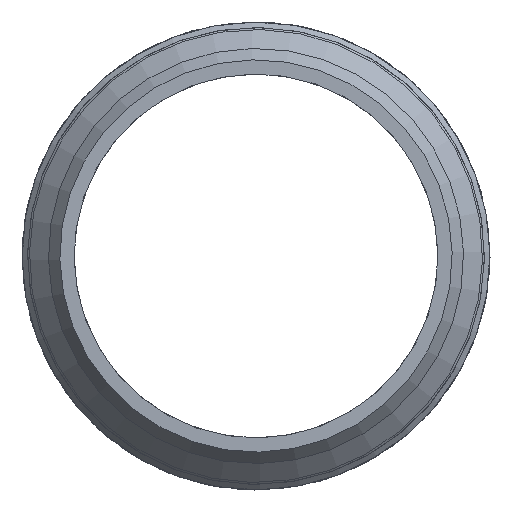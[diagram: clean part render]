
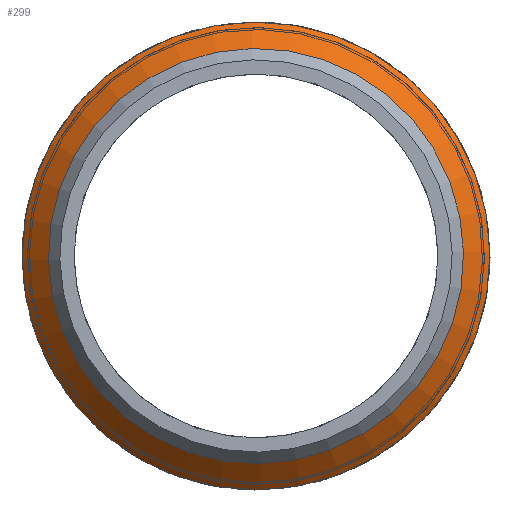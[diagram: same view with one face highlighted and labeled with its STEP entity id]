
A CAD part, front view. The second image highlights one B-rep face of the part: STEP entity #299.
In plain terms, the highlighted conical face has half-angle 45 degrees and reference radius 47.282 mm.
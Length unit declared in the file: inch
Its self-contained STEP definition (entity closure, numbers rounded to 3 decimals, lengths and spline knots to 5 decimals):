
#11=CONICAL_SURFACE('',#341,1.8615,45.);
#44=FACE_BOUND('',#105,.T.);
#68=FACE_OUTER_BOUND('',#104,.T.);
#104=EDGE_LOOP('',(#224));
#105=EDGE_LOOP('',(#225));
#140=CIRCLE('',#342,1.75);
#141=CIRCLE('',#343,1.973);
#164=VERTEX_POINT('',#501);
#165=VERTEX_POINT('',#503);
#188=EDGE_CURVE('',#164,#164,#140,.T.);
#189=EDGE_CURVE('',#165,#165,#141,.T.);
#224=ORIENTED_EDGE('',*,*,#188,.F.);
#225=ORIENTED_EDGE('',*,*,#189,.F.);
#299=ADVANCED_FACE('',(#68,#44),#11,.T.);
#341=AXIS2_PLACEMENT_3D('',#500,#415,#416);
#342=AXIS2_PLACEMENT_3D('',#502,#417,#418);
#343=AXIS2_PLACEMENT_3D('',#504,#419,#420);
#415=DIRECTION('center_axis',(0.,1.,0.));
#416=DIRECTION('ref_axis',(-0.754,0.,-0.657));
#417=DIRECTION('center_axis',(0.,-1.,0.));
#418=DIRECTION('ref_axis',(0.754,0.,0.657));
#419=DIRECTION('center_axis',(0.,1.,0.));
#420=DIRECTION('ref_axis',(-0.657,0.,0.754));
#500=CARTESIAN_POINT('Origin',(0.,0.951,0.));
#501=CARTESIAN_POINT('',(-1.31987,0.8395,-1.1491));
#502=CARTESIAN_POINT('Origin',(0.,0.8395,0.));
#503=CARTESIAN_POINT('',(-1.48806,1.0625,-1.29553));
#504=CARTESIAN_POINT('Origin',(0.,1.0625,0.));
